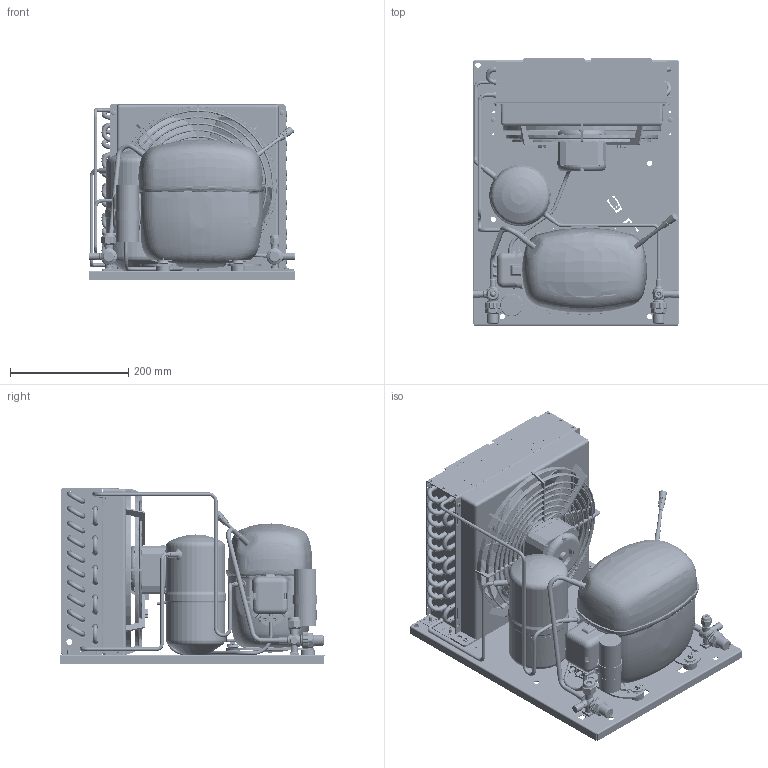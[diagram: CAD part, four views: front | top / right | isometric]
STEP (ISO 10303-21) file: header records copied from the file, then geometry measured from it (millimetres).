
FILE_DESCRIPTION(/* description */ ('Unknown'),/* implementation_level */ '2;1');
FILE_NAME(/* name */ '2298-0037',/* time_stamp */ '2021-12-15T09:14:36+01:00',/* author */ ('Unknown'),/* organization */ ('Unknown'),/* preprocessor_version */ 'ST-DEVELOPER v16.7',/* originating_system */ 'Solid Edge',/* authorisation */ 'Unknown');
FILE_SCHEMA (('AUTOMOTIVE_DESIGN {1 0 10303 214 3 1 1}'));
Products named in the file (44): 2298-0037; 92505122_oa_0; SC12CLX.2-A-CSIR; 1130270f70; r50112006; r50112007; 2990210; r59700314; r50112001; r50004308; 99000000_piccola; cg254n; 84fm8x12xxxteff00; 6062_22M6; A254-22; 6072_23M8; 100_200vs00; 84DM8X6.9XXESRF00; 7210-0003; 84RM10X21XXPIAF00; sc18cl-a-csr_piedino; 84v1.8x35xxcopf00; 8392_A; 7560_3; 7030_3m10; 7560_2; 7010_22; 99510255; 8351_2; 99510255_Tubo; 84a4.2x9.5xtbcf01; 84t4.8x8xxxtcca00_oa_1; 84t4.8x8xxxtcca00_oa_2; 84t4.8x8xxxtcca00_oa_3; 84t4.8x8xxxtcca00_oa_4; 84dm4x3.6xxesrf00; 99000082_secop; NET3T16PVN018; 6803-1367; 99000082_SECOP_F-GAS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
Assembly tree (91 placements, depth 3):
  2298-0037
    92505122_oa_0
    SC12CLX.2-A-CSIR
    1130270f70
      r50112006
      r50112007
      2990210  x15
      r59700314  x16
      r50112001
      r50004308
      99000000_piccola
    cg254n
    84fm8x12xxxteff00  x2
    6062_22M6
    A254-22
    6072_23M8
    100_200vs00
    84DM8X6.9XXESRF00
    7210-0003  x2
    84RM10X21XXPIAF00  x4
    sc18cl-a-csr_piedino  x4
    84v1.8x35xxcopf00  x4
    8392_A  x2
    7560_3
    7030_3m10
    7560_2
    7010_22
    99510255
      8351_2
      99510255_Tubo
      8392_A
    84a4.2x9.5xtbcf01  x4
    84t4.8x8xxxtcca00_oa_1
    84t4.8x8xxxtcca00_oa_2
    84t4.8x8xxxtcca00_oa_3
    84t4.8x8xxxtcca00_oa_4
    84dm4x3.6xxesrf00  x4
    99000082_secop
    NET3T16PVN018
    6803-1367
    99000082_SECOP_F-GAS
    6803-1243
    6803-1244
    2298-0037_CAVO_VENTOLA
    6804-0509
Bounding box: 350 x 452 x 297.36 mm (x, y, z)
Volume: 6152599.5 mm3; surface area: 2568672 mm2
Topology: 95 solids, 100 shells, 10047 faces, 26226 edges, 16936 vertices
Faces by surface type: plane 6333, cylinder 1654, bspline 1088, torus 471, cone 466, sphere 35
Full cylindrical faces by diameter (mm): 0.5 x1, 1 x6, 1.2 x4, 1.65 x2, 1.75 x1, 1.751 x1, 1.8 x20, 2.2 x8, 2.31 x4, 2.7 x4, 3 x7, 3.2 x2, 3.242 x4, 3.3 x4, 3.4 x4, 3.5 x16, 3.6 x4, 3.7 x4, 3.8 x2, 3.85 x2, 4 x16, 4.2 x18, 4.3 x1, 4.4 x4, 4.5 x6, 4.6 x1, 4.66 x5, 4.7 x4, 5 x17, 5.2 x1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
Entity records: 437997 total; most frequent: CARTESIAN_POINT 194842, ORIENTED_EDGE 46676, DIRECTION 36840, EDGE_CURVE 23338, VERTEX_POINT 15674, AXIS2_PLACEMENT_3D 12442, LINE 11956, VECTOR 11956
